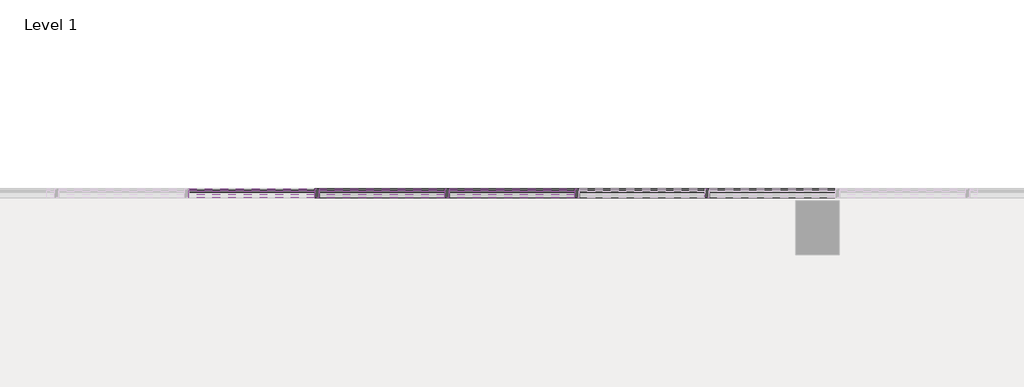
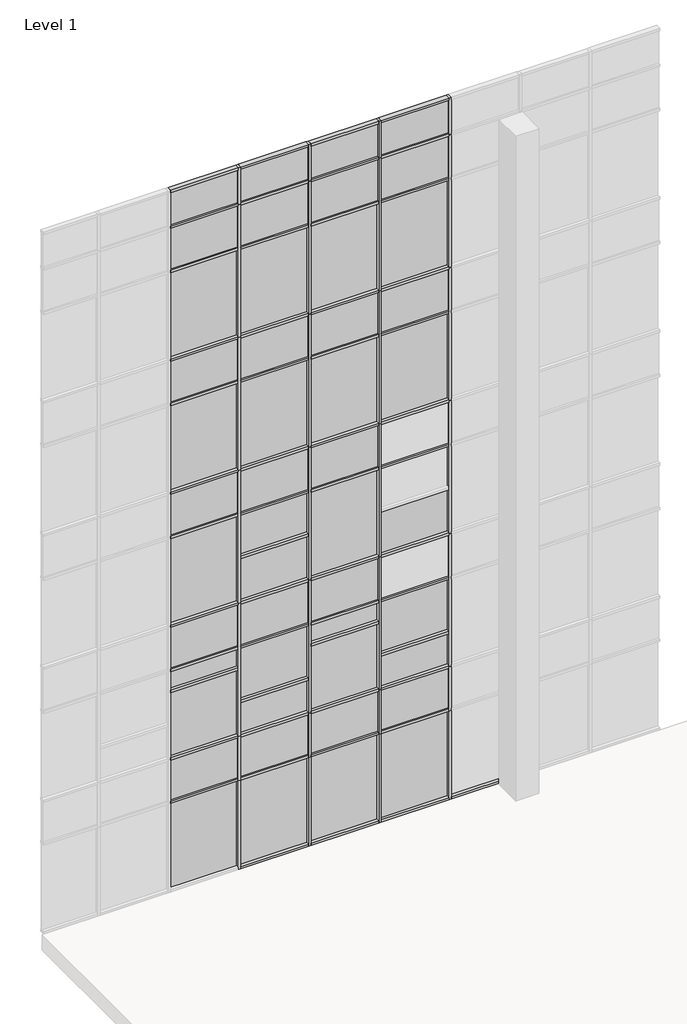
# One storey, part 11 of 23: 81 members, 47 plates.
"""IFC4 building model written with IfcOpenShell, lengths in millimetres."""

from ifc_helpers import new_model, si_unit, origin, place, context, project, spatial, transform, mapped, element, save
from components import member_2b49869a, member_f92b8aa2, member_810865a4, member_f0fea5a5, member_6d5c3e5e, member_9764dd38, system_panel_glazed_14c75400, system_panel_glazed_7d142148, system_panel_glazed_725bf07f, system_panel_glazed_8331d6f5, system_panel_glazed_33b17147, system_panel_glazed_3ed5c639, system_panel_glazed_f9823347, system_panel_solid_5dfe6f83, system_panel_solid_e25e2004, system_panel_solid_b7551183

model = new_model("IFC4")

# Units and contexts
model_context = context("Model", 3, world=origin())
ifc_project = project(units=[si_unit("LENGTHUNIT", "METRE", prefix="MILLI")], contexts=[model_context])

# Site, building, storey
site = spatial("IfcSite", under=ifc_project)
building = spatial("IfcBuilding", under=site)
storey = spatial("IfcBuildingStorey", under=building, Name="Level 1", Elevation=0.0)

# Members
placement = place(None, origin())
member_shape = member_2b49869a(model_context)
element("IfcMember", 1, ObjectType="Rectangular Mullion : 2.5\" x 5\" rectangular", at=placement, inside=storey, context=model_context, shape_type="MappedRepresentation", body=[
    mapped(member_shape, transform((-59871.8373649, 10017.7896508, 2438.4), x_axis=(1.0, 0.0, 0.0), y_axis=(0.0, -1.0, 0.0), z_axis=(0.0, 0.0, -1.0))),
])
element("IfcMember", 2, ObjectType="Rectangular Mullion : 2.5\" x 5\" rectangular", at=placement, inside=storey, context=model_context, shape_type="MappedRepresentation", body=[
    mapped(member_shape, transform((-61700.6373649, 10017.7896508, 2438.4), x_axis=(1.0, 0.0, 0.0), y_axis=(0.0, -1.0, 0.0), z_axis=(0.0, 0.0, -1.0))),
])
element("IfcMember", 3, ObjectType="Rectangular Mullion : 2.5\" x 5\" rectangular", at=placement, inside=storey, context=model_context, shape_type="MappedRepresentation", body=[
    mapped(member_shape, transform((-63529.4373649, 10017.7896508, 2438.4), x_axis=(1.0, 0.0, 0.0), y_axis=(0.0, -1.0, 0.0), z_axis=(0.0, 0.0, -1.0))),
])
element("IfcMember", 4, ObjectType="Rectangular Mullion : 2.5\" x 5\" rectangular", at=placement, inside=storey, context=model_context, shape_type="MappedRepresentation", body=[
    mapped(member_shape, transform((-58043.0373649, 10017.7896508, 2438.4), x_axis=(1.0, 0.0, 0.0), y_axis=(0.0, -1.0, 0.0), z_axis=(0.0, 0.0, -1.0))),
])
member_2_shape = member_f92b8aa2(model_context)
element("IfcMember", 5, ObjectType="Rectangular Mullion : 2.5\" x 5\" rectangular", at=placement, inside=storey, context=model_context, shape_type="MappedRepresentation", body=[
    mapped(member_2_shape, transform((-59871.8373649, 10017.7896508, 18288.0), x_axis=(1.0, 0.0, 0.0), y_axis=(0.0, -1.0, 0.0), z_axis=(0.0, 0.0, -1.0))),
])
element("IfcMember", 6, ObjectType="Rectangular Mullion : 2.5\" x 5\" rectangular", at=placement, inside=storey, context=model_context, shape_type="MappedRepresentation", body=[
    mapped(member_2_shape, transform((-61700.6373649, 10017.7896508, 18288.0), x_axis=(1.0, 0.0, 0.0), y_axis=(0.0, -1.0, 0.0), z_axis=(0.0, 0.0, -1.0))),
])
element("IfcMember", 7, ObjectType="Rectangular Mullion : 2.5\" x 5\" rectangular", at=placement, inside=storey, context=model_context, shape_type="MappedRepresentation", body=[
    mapped(member_2_shape, transform((-63529.4373649, 10017.7896508, 18288.0), x_axis=(1.0, 0.0, 0.0), y_axis=(0.0, -1.0, 0.0), z_axis=(0.0, 0.0, -1.0))),
])
element("IfcMember", 8, ObjectType="Rectangular Mullion : 2.5\" x 5\" rectangular", at=placement, inside=storey, context=model_context, shape_type="MappedRepresentation", body=[
    mapped(member_2_shape, transform((-58043.0373649, 10017.7896508, 18288.0), x_axis=(1.0, 0.0, 0.0), y_axis=(0.0, -1.0, 0.0), z_axis=(0.0, 0.0, -1.0))),
])
member_3_shape = member_810865a4(model_context)
element("IfcMember", 9, ObjectType="Rectangular Mullion : 2.5\" x 5\" rectangular", at=placement, inside=storey, context=model_context, shape_type="MappedRepresentation", body=[
    mapped(member_3_shape, transform((-58043.0373649, 10017.7896508, 3657.6), x_axis=(1.0, 0.0, 0.0), y_axis=(0.0, -1.0, 0.0), z_axis=(0.0, 0.0, -1.0))),
])
element("IfcMember", 10, ObjectType="Rectangular Mullion : 2.5\" x 5\" rectangular", at=placement, inside=storey, context=model_context, shape_type="MappedRepresentation", body=[
    mapped(member_3_shape, transform((-59871.8373649, 10017.7896508, 14630.4), x_axis=(1.0, 0.0, 0.0), y_axis=(0.0, -1.0, 0.0), z_axis=(0.0, 0.0, -1.0))),
])
element("IfcMember", 11, ObjectType="Rectangular Mullion : 2.5\" x 5\" rectangular", at=placement, inside=storey, context=model_context, shape_type="MappedRepresentation", body=[
    mapped(member_3_shape, transform((-59871.8373649, 10017.7896508, 10972.8), x_axis=(1.0, 0.0, 0.0), y_axis=(0.0, -1.0, 0.0), z_axis=(0.0, 0.0, -1.0))),
])
element("IfcMember", 12, ObjectType="Rectangular Mullion : 2.5\" x 5\" rectangular", at=placement, inside=storey, context=model_context, shape_type="MappedRepresentation", body=[
    mapped(member_3_shape, transform((-59871.8373649, 10017.7896508, 7315.2), x_axis=(1.0, 0.0, 0.0), y_axis=(0.0, -1.0, 0.0), z_axis=(0.0, 0.0, -1.0))),
])
element("IfcMember", 13, ObjectType="Rectangular Mullion : 2.5\" x 5\" rectangular", at=placement, inside=storey, context=model_context, shape_type="MappedRepresentation", body=[
    mapped(member_3_shape, transform((-59871.8373649, 10017.7896508, 3657.6), x_axis=(1.0, 0.0, 0.0), y_axis=(0.0, -1.0, 0.0), z_axis=(0.0, 0.0, -1.0))),
])
element("IfcMember", 14, ObjectType="Rectangular Mullion : 2.5\" x 5\" rectangular", at=placement, inside=storey, context=model_context, shape_type="MappedRepresentation", body=[
    mapped(member_3_shape, transform((-61700.6373649, 10017.7896508, 14630.4), x_axis=(1.0, 0.0, 0.0), y_axis=(0.0, -1.0, 0.0), z_axis=(0.0, 0.0, -1.0))),
])
element("IfcMember", 15, ObjectType="Rectangular Mullion : 2.5\" x 5\" rectangular", at=placement, inside=storey, context=model_context, shape_type="MappedRepresentation", body=[
    mapped(member_3_shape, transform((-61700.6373649, 10017.7896508, 10972.8), x_axis=(1.0, 0.0, 0.0), y_axis=(0.0, -1.0, 0.0), z_axis=(0.0, 0.0, -1.0))),
])
element("IfcMember", 16, ObjectType="Rectangular Mullion : 2.5\" x 5\" rectangular", at=placement, inside=storey, context=model_context, shape_type="MappedRepresentation", body=[
    mapped(member_3_shape, transform((-61700.6373649, 10017.7896508, 7315.2), x_axis=(1.0, 0.0, 0.0), y_axis=(0.0, -1.0, 0.0), z_axis=(0.0, 0.0, -1.0))),
])
element("IfcMember", 17, ObjectType="Rectangular Mullion : 2.5\" x 5\" rectangular", at=placement, inside=storey, context=model_context, shape_type="MappedRepresentation", body=[
    mapped(member_3_shape, transform((-61700.6373649, 10017.7896508, 3657.6), x_axis=(1.0, 0.0, 0.0), y_axis=(0.0, -1.0, 0.0), z_axis=(0.0, 0.0, -1.0))),
])
element("IfcMember", 18, ObjectType="Rectangular Mullion : 2.5\" x 5\" rectangular", at=placement, inside=storey, context=model_context, shape_type="MappedRepresentation", body=[
    mapped(member_3_shape, transform((-63529.4373649, 10017.7896508, 14630.4), x_axis=(1.0, 0.0, 0.0), y_axis=(0.0, -1.0, 0.0), z_axis=(0.0, 0.0, -1.0))),
])
element("IfcMember", 19, ObjectType="Rectangular Mullion : 2.5\" x 5\" rectangular", at=placement, inside=storey, context=model_context, shape_type="MappedRepresentation", body=[
    mapped(member_3_shape, transform((-63529.4373649, 10017.7896508, 10972.8), x_axis=(1.0, 0.0, 0.0), y_axis=(0.0, -1.0, 0.0), z_axis=(0.0, 0.0, -1.0))),
])
element("IfcMember", 20, ObjectType="Rectangular Mullion : 2.5\" x 5\" rectangular", at=placement, inside=storey, context=model_context, shape_type="MappedRepresentation", body=[
    mapped(member_3_shape, transform((-63529.4373649, 10017.7896508, 7315.2), x_axis=(1.0, 0.0, 0.0), y_axis=(0.0, -1.0, 0.0), z_axis=(0.0, 0.0, -1.0))),
])
element("IfcMember", 21, ObjectType="Rectangular Mullion : 2.5\" x 5\" rectangular", at=placement, inside=storey, context=model_context, shape_type="MappedRepresentation", body=[
    mapped(member_3_shape, transform((-63529.4373649, 10017.7896508, 3657.6), x_axis=(1.0, 0.0, 0.0), y_axis=(0.0, -1.0, 0.0), z_axis=(0.0, 0.0, -1.0))),
])
element("IfcMember", 22, ObjectType="Rectangular Mullion : 2.5\" x 5\" rectangular", at=placement, inside=storey, context=model_context, shape_type="MappedRepresentation", body=[
    mapped(member_3_shape, transform((-58043.0373649, 10017.7896508, 14630.4), x_axis=(1.0, 0.0, 0.0), y_axis=(0.0, -1.0, 0.0), z_axis=(0.0, 0.0, -1.0))),
])
element("IfcMember", 23, ObjectType="Rectangular Mullion : 2.5\" x 5\" rectangular", at=placement, inside=storey, context=model_context, shape_type="MappedRepresentation", body=[
    mapped(member_3_shape, transform((-58043.0373649, 10017.7896508, 10972.8), x_axis=(1.0, 0.0, 0.0), y_axis=(0.0, -1.0, 0.0), z_axis=(0.0, 0.0, -1.0))),
])
element("IfcMember", 24, ObjectType="Rectangular Mullion : 2.5\" x 5\" rectangular", at=placement, inside=storey, context=model_context, shape_type="MappedRepresentation", body=[
    mapped(member_3_shape, transform((-58043.0373649, 10017.7896508, 7315.2), x_axis=(1.0, 0.0, 0.0), y_axis=(0.0, -1.0, 0.0), z_axis=(0.0, 0.0, -1.0))),
])
member_4_shape = member_f0fea5a5(model_context)
element("IfcMember", 25, ObjectType="Rectangular Mullion : 2.5\" x 5\" rectangular", at=placement, inside=storey, context=model_context, shape_type="MappedRepresentation", body=[
    mapped(member_4_shape, transform((-61700.6373649, 10017.7896508, 0.0), x_axis=(1.0, 0.0, 0.0), y_axis=(0.0, -1.0, 0.0), z_axis=(0.0, 0.0, -1.0))),
])
element("IfcMember", 26, ObjectType="Rectangular Mullion : 2.5\" x 5\" rectangular", at=placement, inside=storey, context=model_context, shape_type="MappedRepresentation", body=[
    mapped(member_4_shape, transform((-63529.4373649, 10017.7896508, 0.0), x_axis=(1.0, 0.0, 0.0), y_axis=(0.0, -1.0, 0.0), z_axis=(0.0, 0.0, -1.0))),
])
element("IfcMember", 27, ObjectType="Rectangular Mullion : 2.5\" x 5\" rectangular", at=placement, inside=storey, context=model_context, shape_type="MappedRepresentation", body=[
    mapped(member_4_shape, transform((-59871.8373649, 10017.7896508, 0.0), x_axis=(1.0, 0.0, 0.0), y_axis=(0.0, -1.0, 0.0), z_axis=(0.0, 0.0, -1.0))),
])
element("IfcMember", 28, ObjectType="Rectangular Mullion : 2.5\" x 5\" rectangular", at=placement, inside=storey, context=model_context, shape_type="MappedRepresentation", body=[
    mapped(member_4_shape, transform((-58043.0373649, 10017.7896508, 0.0), x_axis=(1.0, 0.0, 0.0), y_axis=(0.0, -1.0, 0.0), z_axis=(0.0, 0.0, -1.0))),
])
member_5_shape = member_6d5c3e5e(model_context)
element("IfcMember", 29, ObjectType="Rectangular Mullion : 2.5\" x 5\" rectangular", at=placement, inside=storey, context=model_context, shape_type="MappedRepresentation", body=[
    mapped(member_5_shape, transform((-58074.7873649, 10017.7896508, 19304.0), x_axis=(0.0, 0.0, 1.0), y_axis=(0.0, -1.0, 0.0), z_axis=(1.0, 0.0, 0.0))),
])
element("IfcMember", 30, ObjectType="Rectangular Mullion : 2.5\" x 5\" rectangular", at=placement, inside=storey, context=model_context, shape_type="MappedRepresentation", body=[
    mapped(member_5_shape, transform((-59903.5873649, 10017.7896508, 19304.0), x_axis=(0.0, 0.0, 1.0), y_axis=(0.0, -1.0, 0.0), z_axis=(1.0, 0.0, 0.0))),
])
element("IfcMember", 31, ObjectType="Rectangular Mullion : 2.5\" x 5\" rectangular", at=placement, inside=storey, context=model_context, shape_type="MappedRepresentation", body=[
    mapped(member_5_shape, transform((-61732.3873649, 10017.7896508, 19304.0), x_axis=(0.0, 0.0, 1.0), y_axis=(0.0, -1.0, 0.0), z_axis=(1.0, 0.0, 0.0))),
])
element("IfcMember", 32, ObjectType="Rectangular Mullion : 2.5\" x 5\" rectangular", at=placement, inside=storey, context=model_context, shape_type="MappedRepresentation", body=[
    mapped(member_5_shape, transform((-63561.1873649, 10017.7896508, 19304.0), x_axis=(0.0, 0.0, 1.0), y_axis=(0.0, -1.0, 0.0), z_axis=(1.0, 0.0, 0.0))),
])
member_6_shape = member_9764dd38(model_context)
element("IfcMember", 33, ObjectType="Rectangular Mullion : 2.5\" x 5\" rectangular", at=placement, inside=storey, context=model_context, shape_type="MappedRepresentation", body=[
    mapped(member_6_shape, transform((-58074.7873649, 10017.7896508, 17068.8), x_axis=(0.0, 0.0, 1.0), y_axis=(0.0, -1.0, 0.0), z_axis=(1.0, 0.0, 0.0))),
])
element("IfcMember", 34, ObjectType="Rectangular Mullion : 2.5\" x 5\" rectangular", at=placement, inside=storey, context=model_context, shape_type="MappedRepresentation", body=[
    mapped(member_6_shape, transform((-59903.5873649, 10017.7896508, 17068.8), x_axis=(0.0, 0.0, 1.0), y_axis=(0.0, -1.0, 0.0), z_axis=(1.0, 0.0, 0.0))),
])
element("IfcMember", 35, ObjectType="Rectangular Mullion : 2.5\" x 5\" rectangular", at=placement, inside=storey, context=model_context, shape_type="MappedRepresentation", body=[
    mapped(member_6_shape, transform((-61732.3873649, 10017.7896508, 17068.8), x_axis=(0.0, 0.0, 1.0), y_axis=(0.0, -1.0, 0.0), z_axis=(1.0, 0.0, 0.0))),
])
element("IfcMember", 36, ObjectType="Rectangular Mullion : 2.5\" x 5\" rectangular", at=placement, inside=storey, context=model_context, shape_type="MappedRepresentation", body=[
    mapped(member_6_shape, transform((-63561.1873649, 10017.7896508, 17068.8), x_axis=(0.0, 0.0, 1.0), y_axis=(0.0, -1.0, 0.0), z_axis=(1.0, 0.0, 0.0))),
])
element("IfcMember", 37, ObjectType="Rectangular Mullion : 2.5\" x 5\" rectangular", at=placement, inside=storey, context=model_context, shape_type="MappedRepresentation", body=[
    mapped(member_6_shape, transform((-58074.7873649, 10017.7896508, 13411.2), x_axis=(0.0, 0.0, 1.0), y_axis=(0.0, -1.0, 0.0), z_axis=(1.0, 0.0, 0.0))),
])
element("IfcMember", 38, ObjectType="Rectangular Mullion : 2.5\" x 5\" rectangular", at=placement, inside=storey, context=model_context, shape_type="MappedRepresentation", body=[
    mapped(member_6_shape, transform((-59903.5873649, 10017.7896508, 13411.2), x_axis=(0.0, 0.0, 1.0), y_axis=(0.0, -1.0, 0.0), z_axis=(1.0, 0.0, 0.0))),
])
element("IfcMember", 39, ObjectType="Rectangular Mullion : 2.5\" x 5\" rectangular", at=placement, inside=storey, context=model_context, shape_type="MappedRepresentation", body=[
    mapped(member_6_shape, transform((-61732.3873649, 10017.7896508, 13411.2), x_axis=(0.0, 0.0, 1.0), y_axis=(0.0, -1.0, 0.0), z_axis=(1.0, 0.0, 0.0))),
])
element("IfcMember", 40, ObjectType="Rectangular Mullion : 2.5\" x 5\" rectangular", at=placement, inside=storey, context=model_context, shape_type="MappedRepresentation", body=[
    mapped(member_6_shape, transform((-63561.1873649, 10017.7896508, 13411.2), x_axis=(0.0, 0.0, 1.0), y_axis=(0.0, -1.0, 0.0), z_axis=(1.0, 0.0, 0.0))),
])
element("IfcMember", 41, ObjectType="Rectangular Mullion : 2.5\" x 5\" rectangular", at=placement, inside=storey, context=model_context, shape_type="MappedRepresentation", body=[
    mapped(member_6_shape, transform((-58074.7873649, 10017.7896508, 9753.6), x_axis=(0.0, 0.0, 1.0), y_axis=(0.0, -1.0, 0.0), z_axis=(1.0, 0.0, 0.0))),
])
element("IfcMember", 42, ObjectType="Rectangular Mullion : 2.5\" x 5\" rectangular", at=placement, inside=storey, context=model_context, shape_type="MappedRepresentation", body=[
    mapped(member_6_shape, transform((-59903.5873649, 10017.7896508, 9753.6), x_axis=(0.0, 0.0, 1.0), y_axis=(0.0, -1.0, 0.0), z_axis=(1.0, 0.0, 0.0))),
])
element("IfcMember", 43, ObjectType="Rectangular Mullion : 2.5\" x 5\" rectangular", at=placement, inside=storey, context=model_context, shape_type="MappedRepresentation", body=[
    mapped(member_6_shape, transform((-61732.3873649, 10017.7896508, 9753.6), x_axis=(0.0, 0.0, 1.0), y_axis=(0.0, -1.0, 0.0), z_axis=(1.0, 0.0, 0.0))),
])
element("IfcMember", 44, ObjectType="Rectangular Mullion : 2.5\" x 5\" rectangular", at=placement, inside=storey, context=model_context, shape_type="MappedRepresentation", body=[
    mapped(member_6_shape, transform((-63561.1873649, 10017.7896508, 9753.6), x_axis=(0.0, 0.0, 1.0), y_axis=(0.0, -1.0, 0.0), z_axis=(1.0, 0.0, 0.0))),
])
element("IfcMember", 45, ObjectType="Rectangular Mullion : 2.5\" x 5\" rectangular", at=placement, inside=storey, context=model_context, shape_type="MappedRepresentation", body=[
    mapped(member_6_shape, transform((-58074.7873649, 10017.7896508, 6096.0), x_axis=(0.0, 0.0, 1.0), y_axis=(0.0, -1.0, 0.0), z_axis=(1.0, 0.0, 0.0))),
])
element("IfcMember", 46, ObjectType="Rectangular Mullion : 2.5\" x 5\" rectangular", at=placement, inside=storey, context=model_context, shape_type="MappedRepresentation", body=[
    mapped(member_6_shape, transform((-59903.5873649, 10017.7896508, 6096.0), x_axis=(0.0, 0.0, 1.0), y_axis=(0.0, -1.0, 0.0), z_axis=(1.0, 0.0, 0.0))),
])
element("IfcMember", 47, ObjectType="Rectangular Mullion : 2.5\" x 5\" rectangular", at=placement, inside=storey, context=model_context, shape_type="MappedRepresentation", body=[
    mapped(member_6_shape, transform((-61732.3873649, 10017.7896508, 6096.0), x_axis=(0.0, 0.0, 1.0), y_axis=(0.0, -1.0, 0.0), z_axis=(1.0, 0.0, 0.0))),
])
element("IfcMember", 48, ObjectType="Rectangular Mullion : 2.5\" x 5\" rectangular", at=placement, inside=storey, context=model_context, shape_type="MappedRepresentation", body=[
    mapped(member_6_shape, transform((-63561.1873649, 10017.7896508, 6096.0), x_axis=(0.0, 0.0, 1.0), y_axis=(0.0, -1.0, 0.0), z_axis=(1.0, 0.0, 0.0))),
])
element("IfcMember", 49, ObjectType="Rectangular Mullion : 2.5\" x 5\" rectangular", at=placement, inside=storey, context=model_context, shape_type="MappedRepresentation", body=[
    mapped(member_6_shape, transform((-58074.7873649, 10017.7896508, 2470.15), x_axis=(0.0, 0.0, 1.0), y_axis=(0.0, -1.0, 0.0), z_axis=(1.0, 0.0, 0.0))),
])
element("IfcMember", 50, ObjectType="Rectangular Mullion : 2.5\" x 5\" rectangular", at=placement, inside=storey, context=model_context, shape_type="MappedRepresentation", body=[
    mapped(member_6_shape, transform((-59903.5873649, 10017.7896508, 2470.15), x_axis=(0.0, 0.0, 1.0), y_axis=(0.0, -1.0, 0.0), z_axis=(1.0, 0.0, 0.0))),
])
element("IfcMember", 51, ObjectType="Rectangular Mullion : 2.5\" x 5\" rectangular", at=placement, inside=storey, context=model_context, shape_type="MappedRepresentation", body=[
    mapped(member_6_shape, transform((-61732.3873649, 10017.7896508, 2470.15), x_axis=(0.0, 0.0, 1.0), y_axis=(0.0, -1.0, 0.0), z_axis=(1.0, 0.0, 0.0))),
])
element("IfcMember", 52, ObjectType="Rectangular Mullion : 2.5\" x 5\" rectangular", at=placement, inside=storey, context=model_context, shape_type="MappedRepresentation", body=[
    mapped(member_6_shape, transform((-63561.1873649, 10017.7896508, 2470.15), x_axis=(0.0, 0.0, 1.0), y_axis=(0.0, -1.0, 0.0), z_axis=(1.0, 0.0, 0.0))),
])
element("IfcMember", 53, ObjectType="Rectangular Mullion : 2.5\" x 5\" rectangular", at=placement, inside=storey, context=model_context, shape_type="MappedRepresentation", body=[
    mapped(member_6_shape, transform((-61732.3873649, 10017.7896508, 4603.75), x_axis=(0.0, 0.0, 1.0), y_axis=(0.0, -1.0, 0.0), z_axis=(1.0, 0.0, 0.0))),
])
element("IfcMember", 54, ObjectType="Rectangular Mullion : 2.5\" x 5\" rectangular", at=placement, inside=storey, context=model_context, shape_type="MappedRepresentation", body=[
    mapped(member_6_shape, transform((-58074.7873649, 10017.7896508, 4603.75), x_axis=(0.0, 0.0, 1.0), y_axis=(0.0, -1.0, 0.0), z_axis=(1.0, 0.0, 0.0))),
])
element("IfcMember", 55, ObjectType="Rectangular Mullion : 2.5\" x 5\" rectangular", at=placement, inside=storey, context=model_context, shape_type="MappedRepresentation", body=[
    mapped(member_6_shape, transform((-59903.5873649, 10017.7896508, 5518.15), x_axis=(0.0, 0.0, 1.0), y_axis=(0.0, -1.0, 0.0), z_axis=(1.0, 0.0, 0.0))),
])
element("IfcMember", 56, ObjectType="Rectangular Mullion : 2.5\" x 5\" rectangular", at=placement, inside=storey, context=model_context, shape_type="MappedRepresentation", body=[
    mapped(member_6_shape, transform((-63561.1873649, 10017.7896508, 5518.15), x_axis=(0.0, 0.0, 1.0), y_axis=(0.0, -1.0, 0.0), z_axis=(1.0, 0.0, 0.0))),
])
element("IfcMember", 57, ObjectType="Rectangular Mullion : 2.5\" x 5\" rectangular", at=placement, inside=storey, context=model_context, shape_type="MappedRepresentation", body=[
    mapped(member_6_shape, transform((-61732.3873649, 10017.7896508, 8566.15), x_axis=(0.0, 0.0, 1.0), y_axis=(0.0, -1.0, 0.0), z_axis=(1.0, 0.0, 0.0))),
])
element("IfcMember", 58, ObjectType="Rectangular Mullion : 2.5\" x 5\" rectangular", at=placement, inside=storey, context=model_context, shape_type="MappedRepresentation", body=[
    mapped(member_5_shape, transform((-58011.2873649, 10017.7896508, 0.0), x_axis=(0.0, 0.0, -1.0), y_axis=(0.0, -1.0, 0.0), z_axis=(-1.0, 0.0, 0.0))),
])
element("IfcMember", 59, ObjectType="Rectangular Mullion : 2.5\" x 5\" rectangular", at=placement, inside=storey, context=model_context, shape_type="MappedRepresentation", body=[
    mapped(member_5_shape, transform((-59840.0873649, 10017.7896508, 0.0), x_axis=(0.0, 0.0, -1.0), y_axis=(0.0, -1.0, 0.0), z_axis=(-1.0, 0.0, 0.0))),
])
element("IfcMember", 60, ObjectType="Rectangular Mullion : 2.5\" x 5\" rectangular", at=placement, inside=storey, context=model_context, shape_type="MappedRepresentation", body=[
    mapped(member_5_shape, transform((-61668.8873649, 10017.7896508, 0.0), x_axis=(0.0, 0.0, -1.0), y_axis=(0.0, -1.0, 0.0), z_axis=(-1.0, 0.0, 0.0))),
])
element("IfcMember", 61, ObjectType="Rectangular Mullion : 2.5\" x 5\" rectangular", at=placement, inside=storey, context=model_context, shape_type="MappedRepresentation", body=[
    mapped(member_5_shape, transform((-63497.6873649, 10017.7896508, 0.0), x_axis=(0.0, 0.0, -1.0), y_axis=(0.0, -1.0, 0.0), z_axis=(-1.0, 0.0, 0.0))),
])
element("IfcMember", 62, ObjectType="Rectangular Mullion : 2.5\" x 5\" rectangular", at=placement, inside=storey, context=model_context, shape_type="MappedRepresentation", body=[
    mapped(member_6_shape, transform((-58074.7873649, 10017.7896508, 10972.8), x_axis=(0.0, 0.0, 1.0), y_axis=(0.0, -1.0, 0.0), z_axis=(1.0, 0.0, 0.0))),
])
element("IfcMember", 63, ObjectType="Rectangular Mullion : 2.5\" x 5\" rectangular", at=placement, inside=storey, context=model_context, shape_type="MappedRepresentation", body=[
    mapped(member_6_shape, transform((-59903.5873649, 10017.7896508, 10972.8), x_axis=(0.0, 0.0, 1.0), y_axis=(0.0, -1.0, 0.0), z_axis=(1.0, 0.0, 0.0))),
])
element("IfcMember", 64, ObjectType="Rectangular Mullion : 2.5\" x 5\" rectangular", at=placement, inside=storey, context=model_context, shape_type="MappedRepresentation", body=[
    mapped(member_6_shape, transform((-61732.3873649, 10017.7896508, 10972.8), x_axis=(0.0, 0.0, 1.0), y_axis=(0.0, -1.0, 0.0), z_axis=(1.0, 0.0, 0.0))),
])
element("IfcMember", 65, ObjectType="Rectangular Mullion : 2.5\" x 5\" rectangular", at=placement, inside=storey, context=model_context, shape_type="MappedRepresentation", body=[
    mapped(member_6_shape, transform((-63561.1873649, 10017.7896508, 10972.8), x_axis=(0.0, 0.0, 1.0), y_axis=(0.0, -1.0, 0.0), z_axis=(1.0, 0.0, 0.0))),
])
element("IfcMember", 66, ObjectType="Rectangular Mullion : 2.5\" x 5\" rectangular", at=placement, inside=storey, context=model_context, shape_type="MappedRepresentation", body=[
    mapped(member_6_shape, transform((-58074.7873649, 10017.7896508, 7315.2), x_axis=(0.0, 0.0, 1.0), y_axis=(0.0, -1.0, 0.0), z_axis=(1.0, 0.0, 0.0))),
])
element("IfcMember", 67, ObjectType="Rectangular Mullion : 2.5\" x 5\" rectangular", at=placement, inside=storey, context=model_context, shape_type="MappedRepresentation", body=[
    mapped(member_6_shape, transform((-59903.5873649, 10017.7896508, 7315.2), x_axis=(0.0, 0.0, 1.0), y_axis=(0.0, -1.0, 0.0), z_axis=(1.0, 0.0, 0.0))),
])
element("IfcMember", 68, ObjectType="Rectangular Mullion : 2.5\" x 5\" rectangular", at=placement, inside=storey, context=model_context, shape_type="MappedRepresentation", body=[
    mapped(member_6_shape, transform((-61732.3873649, 10017.7896508, 7315.2), x_axis=(0.0, 0.0, 1.0), y_axis=(0.0, -1.0, 0.0), z_axis=(1.0, 0.0, 0.0))),
])
element("IfcMember", 69, ObjectType="Rectangular Mullion : 2.5\" x 5\" rectangular", at=placement, inside=storey, context=model_context, shape_type="MappedRepresentation", body=[
    mapped(member_6_shape, transform((-63561.1873649, 10017.7896508, 7315.2), x_axis=(0.0, 0.0, 1.0), y_axis=(0.0, -1.0, 0.0), z_axis=(1.0, 0.0, 0.0))),
])
element("IfcMember", 70, ObjectType="Rectangular Mullion : 2.5\" x 5\" rectangular", at=placement, inside=storey, context=model_context, shape_type="MappedRepresentation", body=[
    mapped(member_6_shape, transform((-59903.5873649, 10017.7896508, 18288.0), x_axis=(0.0, 0.0, 1.0), y_axis=(0.0, -1.0, 0.0), z_axis=(1.0, 0.0, 0.0))),
])
element("IfcMember", 71, ObjectType="Rectangular Mullion : 2.5\" x 5\" rectangular", at=placement, inside=storey, context=model_context, shape_type="MappedRepresentation", body=[
    mapped(member_6_shape, transform((-61732.3873649, 10017.7896508, 18288.0), x_axis=(0.0, 0.0, 1.0), y_axis=(0.0, -1.0, 0.0), z_axis=(1.0, 0.0, 0.0))),
])
element("IfcMember", 72, ObjectType="Rectangular Mullion : 2.5\" x 5\" rectangular", at=placement, inside=storey, context=model_context, shape_type="MappedRepresentation", body=[
    mapped(member_6_shape, transform((-63561.1873649, 10017.7896508, 18288.0), x_axis=(0.0, 0.0, 1.0), y_axis=(0.0, -1.0, 0.0), z_axis=(1.0, 0.0, 0.0))),
])
element("IfcMember", 73, ObjectType="Rectangular Mullion : 2.5\" x 5\" rectangular", at=placement, inside=storey, context=model_context, shape_type="MappedRepresentation", body=[
    mapped(member_6_shape, transform((-58074.7873649, 10017.7896508, 18288.0), x_axis=(0.0, 0.0, 1.0), y_axis=(0.0, -1.0, 0.0), z_axis=(1.0, 0.0, 0.0))),
])
element("IfcMember", 74, ObjectType="Rectangular Mullion : 2.5\" x 5\" rectangular", at=placement, inside=storey, context=model_context, shape_type="MappedRepresentation", body=[
    mapped(member_6_shape, transform((-58074.7873649, 10017.7896508, 14630.4), x_axis=(0.0, 0.0, 1.0), y_axis=(0.0, -1.0, 0.0), z_axis=(1.0, 0.0, 0.0))),
])
element("IfcMember", 75, ObjectType="Rectangular Mullion : 2.5\" x 5\" rectangular", at=placement, inside=storey, context=model_context, shape_type="MappedRepresentation", body=[
    mapped(member_6_shape, transform((-59903.5873649, 10017.7896508, 14630.4), x_axis=(0.0, 0.0, 1.0), y_axis=(0.0, -1.0, 0.0), z_axis=(1.0, 0.0, 0.0))),
])
element("IfcMember", 76, ObjectType="Rectangular Mullion : 2.5\" x 5\" rectangular", at=placement, inside=storey, context=model_context, shape_type="MappedRepresentation", body=[
    mapped(member_6_shape, transform((-61732.3873649, 10017.7896508, 14630.4), x_axis=(0.0, 0.0, 1.0), y_axis=(0.0, -1.0, 0.0), z_axis=(1.0, 0.0, 0.0))),
])
element("IfcMember", 77, ObjectType="Rectangular Mullion : 2.5\" x 5\" rectangular", at=placement, inside=storey, context=model_context, shape_type="MappedRepresentation", body=[
    mapped(member_6_shape, transform((-63561.1873649, 10017.7896508, 14630.4), x_axis=(0.0, 0.0, 1.0), y_axis=(0.0, -1.0, 0.0), z_axis=(1.0, 0.0, 0.0))),
])
element("IfcMember", 78, ObjectType="Rectangular Mullion : 2.5\" x 5\" rectangular", at=placement, inside=storey, context=model_context, shape_type="MappedRepresentation", body=[
    mapped(member_6_shape, transform((-61732.3873649, 10017.7896508, 3657.6), x_axis=(0.0, 0.0, 1.0), y_axis=(0.0, -1.0, 0.0), z_axis=(1.0, 0.0, 0.0))),
])
element("IfcMember", 79, ObjectType="Rectangular Mullion : 2.5\" x 5\" rectangular", at=placement, inside=storey, context=model_context, shape_type="MappedRepresentation", body=[
    mapped(member_6_shape, transform((-59903.5873649, 10017.7896508, 3657.6), x_axis=(0.0, 0.0, 1.0), y_axis=(0.0, -1.0, 0.0), z_axis=(1.0, 0.0, 0.0))),
])
element("IfcMember", 80, ObjectType="Rectangular Mullion : 2.5\" x 5\" rectangular", at=placement, inside=storey, context=model_context, shape_type="MappedRepresentation", body=[
    mapped(member_6_shape, transform((-58074.7873649, 10017.7896508, 3657.6), x_axis=(0.0, 0.0, 1.0), y_axis=(0.0, -1.0, 0.0), z_axis=(1.0, 0.0, 0.0))),
])
element("IfcMember", 81, ObjectType="Rectangular Mullion : 2.5\" x 5\" rectangular", at=placement, inside=storey, context=model_context, shape_type="MappedRepresentation", body=[
    mapped(member_6_shape, transform((-63561.1873649, 10017.7896508, 3657.6), x_axis=(0.0, 0.0, 1.0), y_axis=(0.0, -1.0, 0.0), z_axis=(1.0, 0.0, 0.0))),
])

# Plates
system_panel_glazed_shape = system_panel_glazed_14c75400(model_context)
element("IfcPlate", 82, ObjectType="System Panel : Glazed", at=placement, inside=storey, context=model_context, shape_type="MappedRepresentation", body=[
    mapped(system_panel_glazed_shape, transform((-58957.4373649, 10017.7896508, 14662.15), x_axis=(1.0, 0.0, 0.0), y_axis=(0.0, 1.0, 0.0), z_axis=(0.0, 0.0, 1.0))),
])
element("IfcPlate", 83, ObjectType="System Panel : Glazed", at=placement, inside=storey, context=model_context, shape_type="MappedRepresentation", body=[
    mapped(system_panel_glazed_shape, transform((-60786.2373649, 10017.7896508, 14662.15), x_axis=(1.0, 0.0, 0.0), y_axis=(0.0, 1.0, 0.0), z_axis=(0.0, 0.0, 1.0))),
])
element("IfcPlate", 84, ObjectType="System Panel : Glazed", at=placement, inside=storey, context=model_context, shape_type="MappedRepresentation", body=[
    mapped(system_panel_glazed_shape, transform((-62615.0373649, 10017.7896508, 14662.15), x_axis=(1.0, 0.0, 0.0), y_axis=(0.0, 1.0, 0.0), z_axis=(0.0, 0.0, 1.0))),
])
element("IfcPlate", 85, ObjectType="System Panel : Glazed", at=placement, inside=storey, context=model_context, shape_type="MappedRepresentation", body=[
    mapped(system_panel_glazed_shape, transform((-64443.8373649, 10017.7896508, 14662.15), x_axis=(1.0, 0.0, 0.0), y_axis=(0.0, 1.0, 0.0), z_axis=(0.0, 0.0, 1.0))),
])
element("IfcPlate", 86, ObjectType="System Panel : Glazed", at=placement, inside=storey, context=model_context, shape_type="MappedRepresentation", body=[
    mapped(system_panel_glazed_shape, transform((-58957.4373649, 10017.7896508, 11004.55), x_axis=(1.0, 0.0, 0.0), y_axis=(0.0, 1.0, 0.0), z_axis=(0.0, 0.0, 1.0))),
])
element("IfcPlate", 87, ObjectType="System Panel : Glazed", at=placement, inside=storey, context=model_context, shape_type="MappedRepresentation", body=[
    mapped(system_panel_glazed_shape, transform((-60786.2373649, 10017.7896508, 11004.55), x_axis=(1.0, 0.0, 0.0), y_axis=(0.0, 1.0, 0.0), z_axis=(0.0, 0.0, 1.0))),
])
element("IfcPlate", 88, ObjectType="System Panel : Glazed", at=placement, inside=storey, context=model_context, shape_type="MappedRepresentation", body=[
    mapped(system_panel_glazed_shape, transform((-62615.0373649, 10017.7896508, 11004.55), x_axis=(1.0, 0.0, 0.0), y_axis=(0.0, 1.0, 0.0), z_axis=(0.0, 0.0, 1.0))),
])
element("IfcPlate", 89, ObjectType="System Panel : Glazed", at=placement, inside=storey, context=model_context, shape_type="MappedRepresentation", body=[
    mapped(system_panel_glazed_shape, transform((-64443.8373649, 10017.7896508, 11004.55), x_axis=(1.0, 0.0, 0.0), y_axis=(0.0, 1.0, 0.0), z_axis=(0.0, 0.0, 1.0))),
])
element("IfcPlate", 90, ObjectType="System Panel : Glazed", at=placement, inside=storey, context=model_context, shape_type="MappedRepresentation", body=[
    mapped(system_panel_glazed_shape, transform((-60786.2373649, 10017.7896508, 7346.95), x_axis=(1.0, 0.0, 0.0), y_axis=(0.0, 1.0, 0.0), z_axis=(0.0, 0.0, 1.0))),
])
element("IfcPlate", 91, ObjectType="System Panel : Glazed", at=placement, inside=storey, context=model_context, shape_type="MappedRepresentation", body=[
    mapped(system_panel_glazed_shape, transform((-64443.8373649, 10017.7896508, 7346.95), x_axis=(1.0, 0.0, 0.0), y_axis=(0.0, 1.0, 0.0), z_axis=(0.0, 0.0, 1.0))),
])
element("IfcPlate", 92, ObjectType="System Panel : Glazed", at=placement, inside=storey, context=model_context, shape_type="MappedRepresentation", body=[
    mapped(system_panel_glazed_shape, transform((-58957.4373649, 10017.7896508, 63.5), x_axis=(1.0, 0.0, 0.0), y_axis=(0.0, 1.0, 0.0), z_axis=(0.0, 0.0, 1.0))),
])
element("IfcPlate", 93, ObjectType="System Panel : Glazed", at=placement, inside=storey, context=model_context, shape_type="MappedRepresentation", body=[
    mapped(system_panel_glazed_shape, transform((-60786.2373649, 10017.7896508, 63.5), x_axis=(1.0, 0.0, 0.0), y_axis=(0.0, 1.0, 0.0), z_axis=(0.0, 0.0, 1.0))),
])
element("IfcPlate", 94, ObjectType="System Panel : Glazed", at=placement, inside=storey, context=model_context, shape_type="MappedRepresentation", body=[
    mapped(system_panel_glazed_shape, transform((-62615.0373649, 10017.7896508, 63.5), x_axis=(1.0, 0.0, 0.0), y_axis=(0.0, 1.0, 0.0), z_axis=(0.0, 0.0, 1.0))),
])
element("IfcPlate", 95, ObjectType="System Panel : Glazed", at=placement, inside=storey, context=model_context, shape_type="MappedRepresentation", body=[
    mapped(system_panel_glazed_shape, transform((-64443.8373649, 10017.7896508, 63.5), x_axis=(1.0, 0.0, 0.0), y_axis=(0.0, 1.0, 0.0), z_axis=(0.0, 0.0, 1.0))),
])
system_panel_glazed_2_shape = system_panel_glazed_7d142148(model_context)
element("IfcPlate", 96, ObjectType="System Panel : Glazed", at=placement, inside=storey, context=model_context, shape_type="MappedRepresentation", body=[
    mapped(system_panel_glazed_2_shape, transform((-58957.4373649, 10017.7896508, 3689.35), x_axis=(1.0, 0.0, 0.0), y_axis=(0.0, 1.0, 0.0), z_axis=(0.0, 0.0, 1.0))),
])
element("IfcPlate", 97, ObjectType="System Panel : Glazed", at=placement, inside=storey, context=model_context, shape_type="MappedRepresentation", body=[
    mapped(system_panel_glazed_2_shape, transform((-62615.0373649, 10017.7896508, 3689.35), x_axis=(1.0, 0.0, 0.0), y_axis=(0.0, 1.0, 0.0), z_axis=(0.0, 0.0, 1.0))),
])
system_panel_glazed_3_shape = system_panel_glazed_725bf07f(model_context)
element("IfcPlate", 98, ObjectType="System Panel : Glazed", at=placement, inside=storey, context=model_context, shape_type="MappedRepresentation", body=[
    mapped(system_panel_glazed_3_shape, transform((-62615.0373649, 10017.7896508, 4635.5), x_axis=(1.0, 0.0, 0.0), y_axis=(0.0, 1.0, 0.0), z_axis=(0.0, 0.0, 1.0))),
])
element("IfcPlate", 99, ObjectType="System Panel : Glazed", at=placement, inside=storey, context=model_context, shape_type="MappedRepresentation", body=[
    mapped(system_panel_glazed_3_shape, transform((-58957.4373649, 10017.7896508, 4635.5), x_axis=(1.0, 0.0, 0.0), y_axis=(0.0, 1.0, 0.0), z_axis=(0.0, 0.0, 1.0))),
])
system_panel_glazed_4_shape = system_panel_glazed_8331d6f5(model_context)
element("IfcPlate", 100, ObjectType="System Panel : Glazed", at=placement, inside=storey, context=model_context, shape_type="MappedRepresentation", body=[
    mapped(system_panel_glazed_4_shape, transform((-60786.2373649, 10017.7896508, 3689.35), x_axis=(1.0, 0.0, 0.0), y_axis=(0.0, 1.0, 0.0), z_axis=(0.0, 0.0, 1.0))),
])
element("IfcPlate", 101, ObjectType="System Panel : Glazed", at=placement, inside=storey, context=model_context, shape_type="MappedRepresentation", body=[
    mapped(system_panel_glazed_4_shape, transform((-64443.8373649, 10017.7896508, 3689.35), x_axis=(1.0, 0.0, 0.0), y_axis=(0.0, 1.0, 0.0), z_axis=(0.0, 0.0, 1.0))),
])
system_panel_glazed_5_shape = system_panel_glazed_33b17147(model_context)
element("IfcPlate", 102, ObjectType="System Panel : Glazed", at=placement, inside=storey, context=model_context, shape_type="MappedRepresentation", body=[
    mapped(system_panel_glazed_5_shape, transform((-60786.2373649, 10017.7896508, 5549.9), x_axis=(1.0, 0.0, 0.0), y_axis=(0.0, 1.0, 0.0), z_axis=(0.0, 0.0, 1.0))),
])
element("IfcPlate", 103, ObjectType="System Panel : Glazed", at=placement, inside=storey, context=model_context, shape_type="MappedRepresentation", body=[
    mapped(system_panel_glazed_5_shape, transform((-64443.8373649, 10017.7896508, 5549.9), x_axis=(1.0, 0.0, 0.0), y_axis=(0.0, 1.0, 0.0), z_axis=(0.0, 0.0, 1.0))),
])
system_panel_glazed_6_shape = system_panel_glazed_3ed5c639(model_context)
element("IfcPlate", 104, ObjectType="System Panel : Glazed", at=placement, inside=storey, context=model_context, shape_type="MappedRepresentation", body=[
    mapped(system_panel_glazed_6_shape, transform((-58957.4373649, 10017.7896508, 7346.95), x_axis=(1.0, 0.0, 0.0), y_axis=(0.0, 1.0, 0.0), z_axis=(0.0, 0.0, 1.0))),
])
element("IfcPlate", 105, ObjectType="System Panel : Glazed", at=placement, inside=storey, context=model_context, shape_type="MappedRepresentation", body=[
    mapped(system_panel_glazed_6_shape, transform((-62615.0373649, 10017.7896508, 7346.95), x_axis=(1.0, 0.0, 0.0), y_axis=(0.0, 1.0, 0.0), z_axis=(0.0, 0.0, 1.0))),
])
system_panel_glazed_7_shape = system_panel_glazed_f9823347(model_context)
element("IfcPlate", 106, ObjectType="System Panel : Glazed", at=placement, inside=storey, context=model_context, shape_type="MappedRepresentation", body=[
    mapped(system_panel_glazed_7_shape, transform((-62615.0373649, 10017.7896508, 8597.9), x_axis=(1.0, 0.0, 0.0), y_axis=(0.0, 1.0, 0.0), z_axis=(0.0, 0.0, 1.0))),
])
system_panel_solid_shape = system_panel_solid_5dfe6f83(model_context)
element("IfcPlate", 107, ObjectType="System Panel : Solid", at=placement, inside=storey, context=model_context, shape_type="MappedRepresentation", body=[
    mapped(system_panel_solid_shape, transform((-64443.8373649, 10017.7896508, 18319.75), x_axis=(1.0, 0.0, 0.0), y_axis=(0.0, 1.0, 0.0), z_axis=(0.0, 0.0, 1.0))),
])
element("IfcPlate", 108, ObjectType="System Panel : Solid", at=placement, inside=storey, context=model_context, shape_type="MappedRepresentation", body=[
    mapped(system_panel_solid_shape, transform((-62615.0373649, 10017.7896508, 18319.75), x_axis=(1.0, 0.0, 0.0), y_axis=(0.0, 1.0, 0.0), z_axis=(0.0, 0.0, 1.0))),
])
element("IfcPlate", 109, ObjectType="System Panel : Solid", at=placement, inside=storey, context=model_context, shape_type="MappedRepresentation", body=[
    mapped(system_panel_solid_shape, transform((-60786.2373649, 10017.7896508, 18319.75), x_axis=(1.0, 0.0, 0.0), y_axis=(0.0, 1.0, 0.0), z_axis=(0.0, 0.0, 1.0))),
])
element("IfcPlate", 110, ObjectType="System Panel : Solid", at=placement, inside=storey, context=model_context, shape_type="MappedRepresentation", body=[
    mapped(system_panel_solid_shape, transform((-58957.4373649, 10017.7896508, 18319.75), x_axis=(1.0, 0.0, 0.0), y_axis=(0.0, 1.0, 0.0), z_axis=(0.0, 0.0, 1.0))),
])
system_panel_solid_2_shape = system_panel_solid_e25e2004(model_context)
element("IfcPlate", 111, ObjectType="System Panel : Solid", at=placement, inside=storey, context=model_context, shape_type="MappedRepresentation", body=[
    mapped(system_panel_solid_2_shape, transform((-58957.4373649, 10017.7896508, 17100.55), x_axis=(1.0, 0.0, 0.0), y_axis=(0.0, 1.0, 0.0), z_axis=(0.0, 0.0, 1.0))),
])
element("IfcPlate", 112, ObjectType="System Panel : Solid", at=placement, inside=storey, context=model_context, shape_type="MappedRepresentation", body=[
    mapped(system_panel_solid_2_shape, transform((-60786.2373649, 10017.7896508, 17100.55), x_axis=(1.0, 0.0, 0.0), y_axis=(0.0, 1.0, 0.0), z_axis=(0.0, 0.0, 1.0))),
])
element("IfcPlate", 113, ObjectType="System Panel : Solid", at=placement, inside=storey, context=model_context, shape_type="MappedRepresentation", body=[
    mapped(system_panel_solid_2_shape, transform((-62615.0373649, 10017.7896508, 17100.55), x_axis=(1.0, 0.0, 0.0), y_axis=(0.0, 1.0, 0.0), z_axis=(0.0, 0.0, 1.0))),
])
element("IfcPlate", 114, ObjectType="System Panel : Solid", at=placement, inside=storey, context=model_context, shape_type="MappedRepresentation", body=[
    mapped(system_panel_solid_2_shape, transform((-64443.8373649, 10017.7896508, 17100.55), x_axis=(1.0, 0.0, 0.0), y_axis=(0.0, 1.0, 0.0), z_axis=(0.0, 0.0, 1.0))),
])
element("IfcPlate", 115, ObjectType="System Panel : Solid", at=placement, inside=storey, context=model_context, shape_type="MappedRepresentation", body=[
    mapped(system_panel_solid_2_shape, transform((-58957.4373649, 10017.7896508, 13442.95), x_axis=(1.0, 0.0, 0.0), y_axis=(0.0, 1.0, 0.0), z_axis=(0.0, 0.0, 1.0))),
])
element("IfcPlate", 116, ObjectType="System Panel : Solid", at=placement, inside=storey, context=model_context, shape_type="MappedRepresentation", body=[
    mapped(system_panel_solid_2_shape, transform((-60786.2373649, 10017.7896508, 13442.95), x_axis=(1.0, 0.0, 0.0), y_axis=(0.0, 1.0, 0.0), z_axis=(0.0, 0.0, 1.0))),
])
element("IfcPlate", 117, ObjectType="System Panel : Solid", at=placement, inside=storey, context=model_context, shape_type="MappedRepresentation", body=[
    mapped(system_panel_solid_2_shape, transform((-62615.0373649, 10017.7896508, 13442.95), x_axis=(1.0, 0.0, 0.0), y_axis=(0.0, 1.0, 0.0), z_axis=(0.0, 0.0, 1.0))),
])
element("IfcPlate", 118, ObjectType="System Panel : Solid", at=placement, inside=storey, context=model_context, shape_type="MappedRepresentation", body=[
    mapped(system_panel_solid_2_shape, transform((-64443.8373649, 10017.7896508, 13442.95), x_axis=(1.0, 0.0, 0.0), y_axis=(0.0, 1.0, 0.0), z_axis=(0.0, 0.0, 1.0))),
])
element("IfcPlate", 119, ObjectType="System Panel : Solid", at=placement, inside=storey, context=model_context, shape_type="MappedRepresentation", body=[
    mapped(system_panel_solid_2_shape, transform((-60786.2373649, 10017.7896508, 9785.35), x_axis=(1.0, 0.0, 0.0), y_axis=(0.0, 1.0, 0.0), z_axis=(0.0, 0.0, 1.0))),
])
element("IfcPlate", 120, ObjectType="System Panel : Solid", at=placement, inside=storey, context=model_context, shape_type="MappedRepresentation", body=[
    mapped(system_panel_solid_2_shape, transform((-62615.0373649, 10017.7896508, 9785.35), x_axis=(1.0, 0.0, 0.0), y_axis=(0.0, 1.0, 0.0), z_axis=(0.0, 0.0, 1.0))),
])
element("IfcPlate", 121, ObjectType="System Panel : Solid", at=placement, inside=storey, context=model_context, shape_type="MappedRepresentation", body=[
    mapped(system_panel_solid_2_shape, transform((-64443.8373649, 10017.7896508, 9785.35), x_axis=(1.0, 0.0, 0.0), y_axis=(0.0, 1.0, 0.0), z_axis=(0.0, 0.0, 1.0))),
])
element("IfcPlate", 122, ObjectType="System Panel : Solid", at=placement, inside=storey, context=model_context, shape_type="MappedRepresentation", body=[
    mapped(system_panel_solid_2_shape, transform((-60786.2373649, 10017.7896508, 6127.75), x_axis=(1.0, 0.0, 0.0), y_axis=(0.0, 1.0, 0.0), z_axis=(0.0, 0.0, 1.0))),
])
element("IfcPlate", 123, ObjectType="System Panel : Solid", at=placement, inside=storey, context=model_context, shape_type="MappedRepresentation", body=[
    mapped(system_panel_solid_2_shape, transform((-62615.0373649, 10017.7896508, 6127.75), x_axis=(1.0, 0.0, 0.0), y_axis=(0.0, 1.0, 0.0), z_axis=(0.0, 0.0, 1.0))),
])
element("IfcPlate", 124, ObjectType="System Panel : Solid", at=placement, inside=storey, context=model_context, shape_type="MappedRepresentation", body=[
    mapped(system_panel_solid_2_shape, transform((-64443.8373649, 10017.7896508, 6127.75), x_axis=(1.0, 0.0, 0.0), y_axis=(0.0, 1.0, 0.0), z_axis=(0.0, 0.0, 1.0))),
])
system_panel_solid_3_shape = system_panel_solid_b7551183(model_context)
element("IfcPlate", 125, ObjectType="System Panel : Solid", at=placement, inside=storey, context=model_context, shape_type="MappedRepresentation", body=[
    mapped(system_panel_solid_3_shape, transform((-58957.4373649, 10017.7896508, 2501.9), x_axis=(1.0, 0.0, 0.0), y_axis=(0.0, 1.0, 0.0), z_axis=(0.0, 0.0, 1.0))),
])
element("IfcPlate", 126, ObjectType="System Panel : Solid", at=placement, inside=storey, context=model_context, shape_type="MappedRepresentation", body=[
    mapped(system_panel_solid_3_shape, transform((-60786.2373649, 10017.7896508, 2501.9), x_axis=(1.0, 0.0, 0.0), y_axis=(0.0, 1.0, 0.0), z_axis=(0.0, 0.0, 1.0))),
])
element("IfcPlate", 127, ObjectType="System Panel : Solid", at=placement, inside=storey, context=model_context, shape_type="MappedRepresentation", body=[
    mapped(system_panel_solid_3_shape, transform((-62615.0373649, 10017.7896508, 2501.9), x_axis=(1.0, 0.0, 0.0), y_axis=(0.0, 1.0, 0.0), z_axis=(0.0, 0.0, 1.0))),
])
element("IfcPlate", 128, ObjectType="System Panel : Solid", at=placement, inside=storey, context=model_context, shape_type="MappedRepresentation", body=[
    mapped(system_panel_solid_3_shape, transform((-64443.8373649, 10017.7896508, 2501.9), x_axis=(1.0, 0.0, 0.0), y_axis=(0.0, 1.0, 0.0), z_axis=(0.0, 0.0, 1.0))),
])

save(model, "model.ifc")
